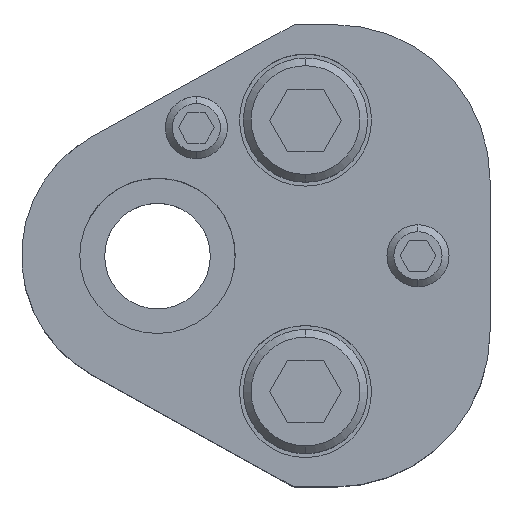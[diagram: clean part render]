
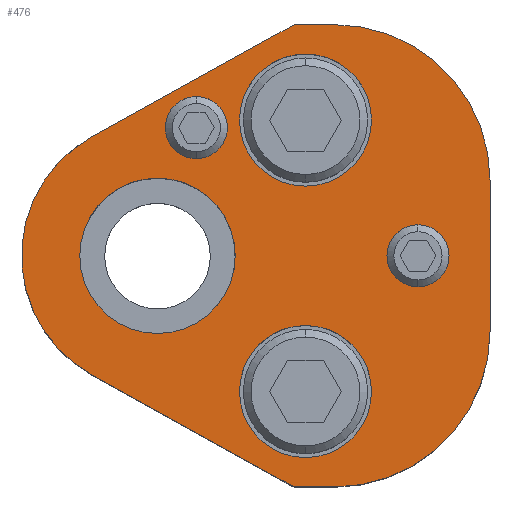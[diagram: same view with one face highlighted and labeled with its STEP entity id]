
A CAD part, top view. The second image highlights one B-rep face of the part: STEP entity #476.
In plain terms, the highlighted planar face has unit normal (0, 0, 1).
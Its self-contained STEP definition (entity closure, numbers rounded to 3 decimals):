
#213=FACE_BOUND('',#843,.T.);
#214=FACE_BOUND('',#844,.T.);
#215=FACE_BOUND('',#845,.T.);
#216=FACE_BOUND('',#846,.T.);
#217=FACE_BOUND('',#847,.T.);
#218=FACE_BOUND('',#848,.T.);
#300=CIRCLE('',#2767,20.);
#302=CIRCLE('',#2771,20.);
#304=CIRCLE('',#2776,4.);
#306=CIRCLE('',#2779,4.);
#308=CIRCLE('',#2782,4.);
#310=CIRCLE('',#2785,4.);
#320=CIRCLE('',#2800,17.5);
#321=CIRCLE('',#2801,8.5);
#322=CIRCLE('',#2802,8.5);
#323=CIRCLE('',#2803,8.5);
#324=CIRCLE('',#2804,8.5);
#325=CIRCLE('',#2805,10.);
#326=CIRCLE('',#2806,10.);
#476=ADVANCED_FACE('',(#213,#214,#215,#216,#217,#218),#592,.T.);
#592=PLANE('',#2807);
#843=EDGE_LOOP('',(#1250,#1251,#1252,#1253,#1254,#1255,#1256,#1257));
#844=EDGE_LOOP('',(#1258,#1259));
#845=EDGE_LOOP('',(#1260,#1261));
#846=EDGE_LOOP('',(#1262,#1263));
#847=EDGE_LOOP('',(#1264,#1265));
#848=EDGE_LOOP('',(#1266,#1267));
#1250=ORIENTED_EDGE('',*,*,#2066,.T.);
#1251=ORIENTED_EDGE('',*,*,#2024,.T.);
#1252=ORIENTED_EDGE('',*,*,#2028,.T.);
#1253=ORIENTED_EDGE('',*,*,#2031,.T.);
#1254=ORIENTED_EDGE('',*,*,#2034,.T.);
#1255=ORIENTED_EDGE('',*,*,#2037,.T.);
#1256=ORIENTED_EDGE('',*,*,#2040,.T.);
#1257=ORIENTED_EDGE('',*,*,#2067,.T.);
#1258=ORIENTED_EDGE('',*,*,#2068,.F.);
#1259=ORIENTED_EDGE('',*,*,#2069,.F.);
#1260=ORIENTED_EDGE('',*,*,#2070,.F.);
#1261=ORIENTED_EDGE('',*,*,#2071,.F.);
#1262=ORIENTED_EDGE('',*,*,#2052,.F.);
#1263=ORIENTED_EDGE('',*,*,#2048,.F.);
#1264=ORIENTED_EDGE('',*,*,#2046,.F.);
#1265=ORIENTED_EDGE('',*,*,#2042,.F.);
#1266=ORIENTED_EDGE('',*,*,#2072,.T.);
#1267=ORIENTED_EDGE('',*,*,#2073,.T.);
#1749=VERTEX_POINT('',#4092);
#1750=VERTEX_POINT('',#4094);
#1753=VERTEX_POINT('',#4101);
#1755=VERTEX_POINT('',#4107);
#1757=VERTEX_POINT('',#4113);
#1759=VERTEX_POINT('',#4119);
#1761=VERTEX_POINT('',#4125);
#1762=VERTEX_POINT('',#4130);
#1763=VERTEX_POINT('',#4131);
#1766=VERTEX_POINT('',#4142);
#1767=VERTEX_POINT('',#4143);
#1778=VERTEX_POINT('',#4178);
#1779=VERTEX_POINT('',#4181);
#1780=VERTEX_POINT('',#4182);
#1781=VERTEX_POINT('',#4185);
#1782=VERTEX_POINT('',#4186);
#1783=VERTEX_POINT('',#4189);
#1784=VERTEX_POINT('',#4190);
#2024=EDGE_CURVE('',#1750,#1749,#2332,.T.);
#2028=EDGE_CURVE('',#1749,#1753,#300,.T.);
#2031=EDGE_CURVE('',#1753,#1755,#2337,.T.);
#2034=EDGE_CURVE('',#1755,#1757,#302,.T.);
#2037=EDGE_CURVE('',#1757,#1759,#2341,.T.);
#2040=EDGE_CURVE('',#1759,#1761,#2344,.T.);
#2042=EDGE_CURVE('',#1762,#1763,#304,.T.);
#2046=EDGE_CURVE('',#1763,#1762,#306,.T.);
#2048=EDGE_CURVE('',#1766,#1767,#308,.T.);
#2052=EDGE_CURVE('',#1767,#1766,#310,.T.);
#2066=EDGE_CURVE('',#1778,#1750,#2354,.T.);
#2067=EDGE_CURVE('',#1761,#1778,#320,.T.);
#2068=EDGE_CURVE('',#1779,#1780,#321,.T.);
#2069=EDGE_CURVE('',#1780,#1779,#322,.T.);
#2070=EDGE_CURVE('',#1781,#1782,#323,.T.);
#2071=EDGE_CURVE('',#1782,#1781,#324,.T.);
#2072=EDGE_CURVE('',#1783,#1784,#325,.T.);
#2073=EDGE_CURVE('',#1784,#1783,#326,.T.);
#2332=LINE('',#4093,#2533);
#2337=LINE('',#4108,#2538);
#2341=LINE('',#4120,#2542);
#2344=LINE('',#4126,#2545);
#2354=LINE('',#4177,#2555);
#2533=VECTOR('',#3243,1.);
#2538=VECTOR('',#3256,1.);
#2542=VECTOR('',#3268,1.);
#2545=VECTOR('',#3273,1.);
#2555=VECTOR('',#3333,1.);
#2767=AXIS2_PLACEMENT_3D('',#4102,#3249,#3250);
#2771=AXIS2_PLACEMENT_3D('',#4114,#3261,#3262);
#2776=AXIS2_PLACEMENT_3D('',#4129,#3277,#3278);
#2779=AXIS2_PLACEMENT_3D('',#4138,#3285,#3286);
#2782=AXIS2_PLACEMENT_3D('',#4141,#3291,#3292);
#2785=AXIS2_PLACEMENT_3D('',#4150,#3299,#3300);
#2800=AXIS2_PLACEMENT_3D('',#4179,#3334,#3335);
#2801=AXIS2_PLACEMENT_3D('',#4180,#3336,#3337);
#2802=AXIS2_PLACEMENT_3D('',#4183,#3338,#3339);
#2803=AXIS2_PLACEMENT_3D('',#4184,#3340,#3341);
#2804=AXIS2_PLACEMENT_3D('',#4187,#3342,#3343);
#2805=AXIS2_PLACEMENT_3D('',#4188,#3344,#3345);
#2806=AXIS2_PLACEMENT_3D('',#4191,#3346,#3347);
#2807=AXIS2_PLACEMENT_3D('',#4192,#3348,#3349);
#3243=DIRECTION('',(1.,0.,0.));
#3249=DIRECTION('',(0.,0.,1.));
#3250=DIRECTION('',(-0.707,0.707,0.));
#3256=DIRECTION('',(0.,1.,0.));
#3261=DIRECTION('',(0.,0.,1.));
#3262=DIRECTION('',(-0.707,-0.707,0.));
#3268=DIRECTION('',(-1.,0.,0.));
#3273=DIRECTION('',(-0.875,-0.485,0.));
#3277=DIRECTION('',(0.,0.,1.));
#3278=DIRECTION('',(-1.,0.,0.));
#3285=DIRECTION('',(0.,0.,1.));
#3286=DIRECTION('',(1.,0.,0.));
#3291=DIRECTION('',(0.,0.,1.));
#3292=DIRECTION('',(-1.,0.,0.));
#3299=DIRECTION('',(0.,0.,1.));
#3300=DIRECTION('',(1.,0.,0.));
#3333=DIRECTION('',(0.875,-0.485,0.));
#3334=DIRECTION('',(0.,0.,1.));
#3335=DIRECTION('',(1.,0.,0.));
#3336=DIRECTION('',(0.,0.,1.));
#3337=DIRECTION('',(1.,0.,0.));
#3338=DIRECTION('',(0.,0.,1.));
#3339=DIRECTION('',(-1.,0.,0.));
#3340=DIRECTION('',(0.,0.,1.));
#3341=DIRECTION('',(1.,0.,0.));
#3342=DIRECTION('',(0.,0.,1.));
#3343=DIRECTION('',(-1.,0.,0.));
#3344=DIRECTION('',(0.,0.,-1.));
#3345=DIRECTION('',(-1.,0.,0.));
#3346=DIRECTION('',(0.,0.,-1.));
#3347=DIRECTION('',(1.,0.,0.));
#3348=DIRECTION('',(0.,0.,1.));
#3349=DIRECTION('',(-0.875,0.485,0.));
#4092=CARTESIAN_POINT('',(22.8,-29.75,30.));
#4093=CARTESIAN_POINT('',(17.574,-29.75,30.));
#4094=CARTESIAN_POINT('',(17.574,-29.75,30.));
#4101=CARTESIAN_POINT('',(42.8,-9.75,30.));
#4102=CARTESIAN_POINT('',(22.8,-9.75,30.));
#4107=CARTESIAN_POINT('',(42.8,9.75,30.));
#4108=CARTESIAN_POINT('',(42.8,9.75,30.));
#4113=CARTESIAN_POINT('',(22.8,29.75,30.));
#4114=CARTESIAN_POINT('',(22.8,9.75,30.));
#4119=CARTESIAN_POINT('',(17.574,29.75,30.));
#4120=CARTESIAN_POINT('',(17.574,29.75,30.));
#4125=CARTESIAN_POINT('',(-8.484,15.306,30.));
#4126=CARTESIAN_POINT('',(17.574,29.75,30.));
#4129=CARTESIAN_POINT('',(5.,16.5,30.));
#4130=CARTESIAN_POINT('',(5.,12.5,30.));
#4131=CARTESIAN_POINT('',(5.,20.5,30.));
#4138=CARTESIAN_POINT('',(5.,16.5,30.));
#4141=CARTESIAN_POINT('',(33.53,0.,30.));
#4142=CARTESIAN_POINT('',(33.53,-4.,30.));
#4143=CARTESIAN_POINT('',(33.53,4.,30.));
#4150=CARTESIAN_POINT('',(33.53,0.,30.));
#4177=CARTESIAN_POINT('',(17.574,-29.75,30.));
#4178=CARTESIAN_POINT('',(-8.484,-15.306,30.));
#4179=CARTESIAN_POINT('',(0.,0.,30.));
#4180=CARTESIAN_POINT('',(19.05,17.47,30.));
#4181=CARTESIAN_POINT('',(19.05,25.97,30.));
#4182=CARTESIAN_POINT('',(19.05,8.97,30.));
#4183=CARTESIAN_POINT('',(19.05,17.47,30.));
#4184=CARTESIAN_POINT('',(19.05,-17.47,30.));
#4185=CARTESIAN_POINT('',(19.05,-8.97,30.));
#4186=CARTESIAN_POINT('',(19.05,-25.97,30.));
#4187=CARTESIAN_POINT('',(19.05,-17.47,30.));
#4188=CARTESIAN_POINT('',(0.,0.,30.));
#4189=CARTESIAN_POINT('',(0.,10.,30.));
#4190=CARTESIAN_POINT('',(0.,-10.,30.));
#4191=CARTESIAN_POINT('',(0.,0.,30.));
#4192=CARTESIAN_POINT('',(-8.484,-15.306,30.));
